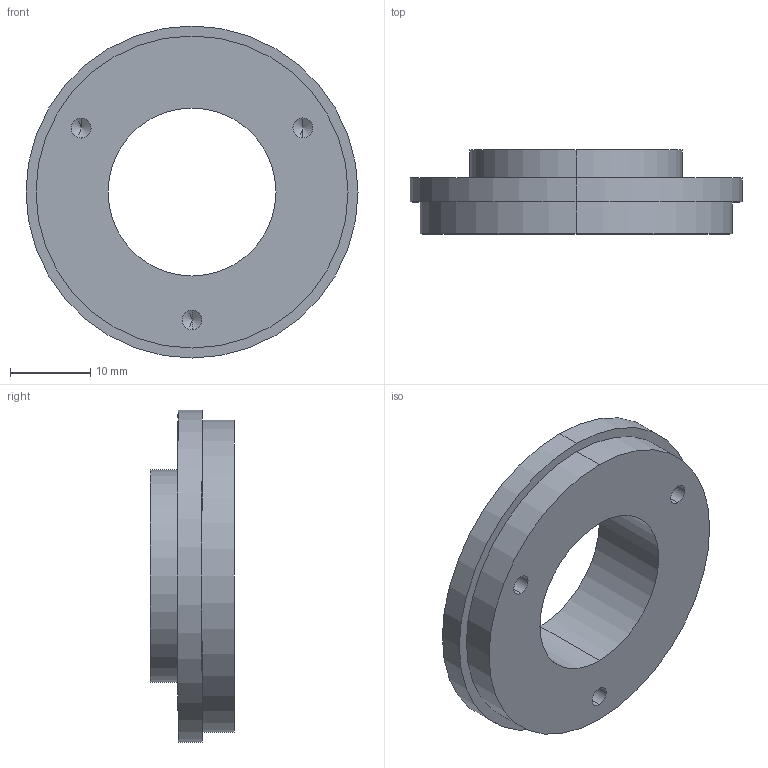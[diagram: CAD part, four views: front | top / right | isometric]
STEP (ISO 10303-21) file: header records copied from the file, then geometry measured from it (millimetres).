
FILE_DESCRIPTION (( 'STEP AP203' ), '1' );
FILE_NAME ('047104-C.STEP', '2025-05-07T10:09:45', ( '' ), ( '' ), 'SwSTEP 2.0', 'SolidWorks 2024', '' );
FILE_SCHEMA (( 'CONFIG_CONTROL_DESIGN' ));
Length unit declared in the file: millimetre
Products named in the file (1): 047104-C
Bounding box: 41.5 x 10.5 x 41.5 mm (x, y, z)
Volume: 7058 mm3; surface area: 3995.4 mm2
Topology: 1 solids, 1 shells, 126 faces, 327 edges, 213 vertices
Faces by surface type: plane 77, bspline 29, cylinder 14, cone 6
Entity records: 5472 total; most frequent: CARTESIAN_POINT 2506, ORIENTED_EDGE 642, DIRECTION 487, EDGE_CURVE 321, VECTOR 235, LINE 235, VERTEX_POINT 213, EDGE_LOOP 144
